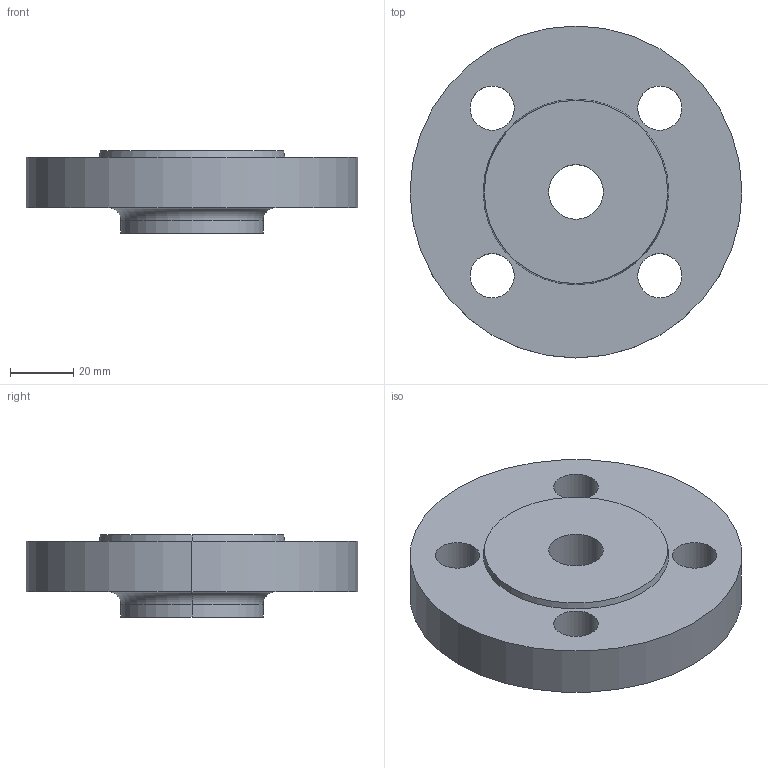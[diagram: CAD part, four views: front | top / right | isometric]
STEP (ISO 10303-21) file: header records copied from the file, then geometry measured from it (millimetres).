
FILE_DESCRIPTION (( 'STEP AP214' ), '1' );
FILE_NAME ('PN40 DN20 Type 13 - Type B Face.STEP', '2018-12-30T04:10:43', ( '' ), ( '' ), 'SwSTEP 2.0', 'SolidWorks 2019', '' );
FILE_SCHEMA (( 'AUTOMOTIVE_DESIGN' ));
Length unit declared in the file: millimetre
Products named in the file (1): PN40 DN20 Type 13 - Type B Face
Bounding box: 105 x 105 x 26 mm (x, y, z)
Volume: 141161.7 mm3; surface area: 26325.1 mm2
Topology: 1 solids, 1 shells, 22 faces, 52 edges, 34 vertices
Faces by surface type: cylinder 14, plane 4, torus 2, cone 2
Entity records: 710 total; most frequent: DIRECTION 134, CARTESIAN_POINT 109, ORIENTED_EDGE 104, AXIS2_PLACEMENT_3D 59, EDGE_CURVE 52, CIRCLE 36, EDGE_LOOP 34, VERTEX_POINT 34
